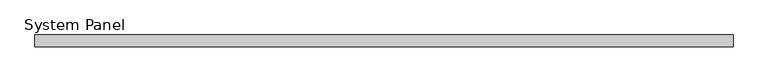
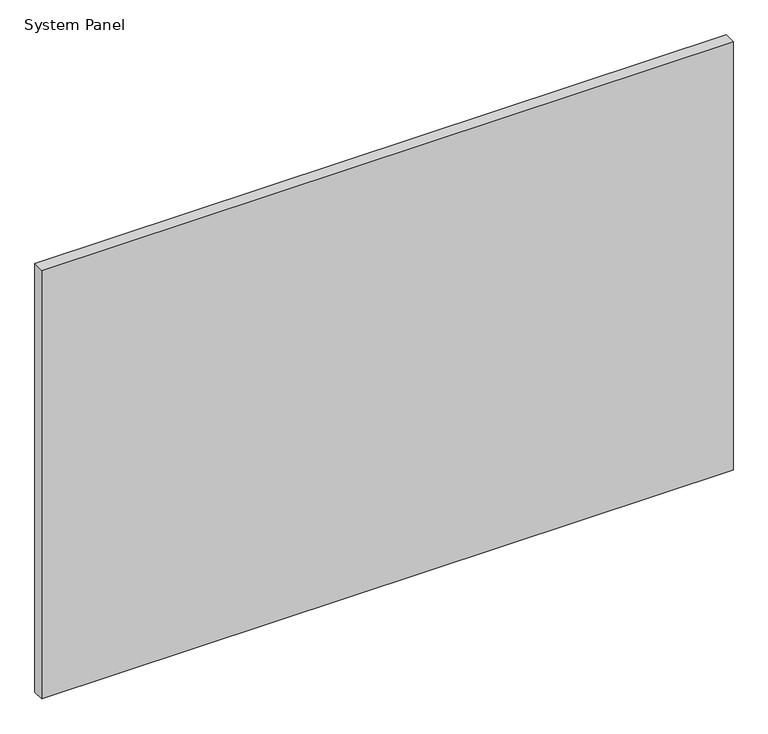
"""IFC4 building model written with IfcOpenShell, lengths in millimetres: plate geometry, System Panel : Glazed - ACMP (AL-1)."""

from ifc_helpers import new_model, si_unit, origin, origin_with_axes, place, context, project, spatial, polyline, outline, extrude, source, transform, mapped, element, save


def system_panel_62f2d337(model_context):
    return source(origin(), model_context, "Body", "SweptSolid", [
        extrude(outline(polyline([(755.65, 0.0), (-755.65, 0.0), (-755.65, 25.4), (755.65, 25.4), (755.65, 0.0)])), origin_with_axes(), (0.0, 0.0, 1.0), 990.5999994),
    ])


if __name__ == "__main__":
    model = new_model("IFC4")
    model_context = context("Model", 3, world=origin())
    ifc_project = project(units=[si_unit("LENGTHUNIT", "METRE", prefix="MILLI")], contexts=[model_context])
    site = spatial("IfcSite", under=ifc_project)
    building = spatial("IfcBuilding", under=site)
    placement = place(None, origin())
    system_panel_shape = system_panel_62f2d337(model_context)
    element("IfcPlate", 1, ObjectType="System Panel : Glazed - ACMP (AL-1)", at=placement, inside=building, context=model_context, shape_type="MappedRepresentation", body=[
        mapped(system_panel_shape, transform((0.0, 0.0, 0.0), x_axis=(1.0, 0.0, 0.0), y_axis=(0.0, 1.0, 0.0), z_axis=(0.0, 0.0, 1.0))),
    ])
    save(model, "model.ifc")
